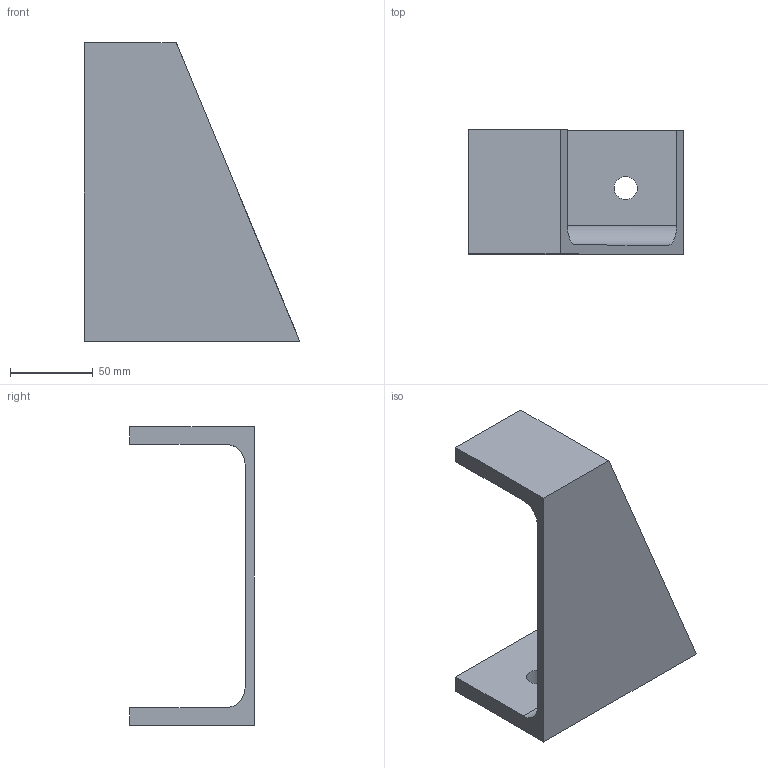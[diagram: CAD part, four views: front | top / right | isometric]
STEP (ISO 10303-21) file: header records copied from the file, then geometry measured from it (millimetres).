
FILE_DESCRIPTION (( 'STEP AP214' ), '1' );
FILE_NAME ('CCJ029-REP.052 - MONTANT ESCALIER SUPERIEUR DOUBLE 1 SYM.STEP', '2024-01-31T09:28:51', ( '' ), ( '' ), 'SwSTEP 2.0', 'SolidWorks 2021', '' );
FILE_SCHEMA (( 'AUTOMOTIVE_DESIGN' ));
Length unit declared in the file: millimetre
Products named in the file (1): CCJ029-REP.052 - MONTANT ESCALIER SUPERIEUR DOUBLE 1 SYM
Bounding box: 130 x 75 x 180 mm (x, y, z)
Volume: 229542.6 mm3; surface area: 64866.4 mm2
Topology: 1 solids, 1 shells, 55 faces, 147 edges, 98 vertices
Faces by surface type: plane 26, bspline 23, cylinder 6
Entity records: 3283 total; most frequent: CARTESIAN_POINT 2018, ORIENTED_EDGE 294, DIRECTION 175, EDGE_CURVE 147, VERTEX_POINT 98, VECTOR 89, LINE 89, EDGE_LOOP 63
